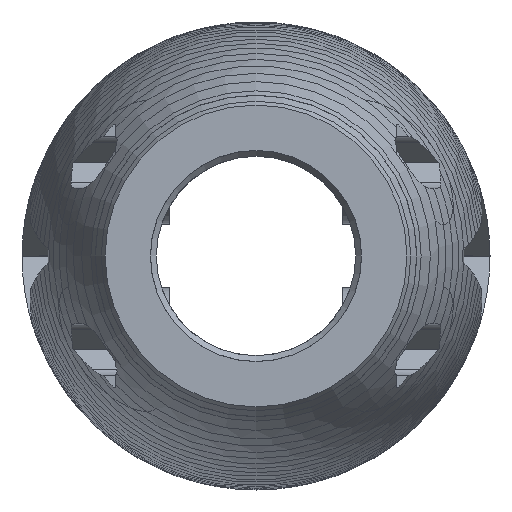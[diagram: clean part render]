
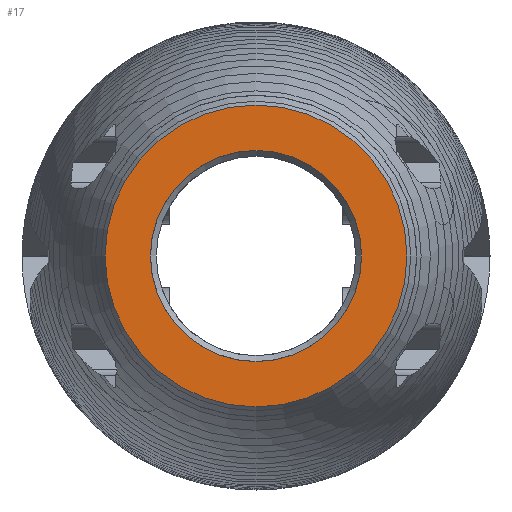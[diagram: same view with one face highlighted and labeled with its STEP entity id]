
A CAD part, left-side view. The second image highlights one B-rep face of the part: STEP entity #17.
In plain terms, the highlighted planar face has unit normal (-1, 0, 0).
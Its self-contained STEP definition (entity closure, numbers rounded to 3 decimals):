
#17 = ADVANCED_FACE('',(#18,#54),#31,.F.);
#18 = FACE_BOUND('',#19,.F.);
#19 = EDGE_LOOP('',(#20));
#20 = ORIENTED_EDGE('',*,*,#21,.F.);
#21 = EDGE_CURVE('',#22,#22,#24,.T.);
#22 = VERTEX_POINT('',#23);
#23 = CARTESIAN_POINT('',(9.9,0.,9.023));
#24 = SURFACE_CURVE('',#25,(#30,#42),.PCURVE_S1.);
#25 = CIRCLE('',#26,9.023);
#26 = AXIS2_PLACEMENT_3D('',#27,#28,#29);
#27 = CARTESIAN_POINT('',(9.9,0.,0.));
#28 = DIRECTION('',(1.,0.,0.));
#29 = DIRECTION('',(0.,0.,1.));
#30 = PCURVE('',#31,#36);
#31 = PLANE('',#32);
#32 = AXIS2_PLACEMENT_3D('',#33,#34,#35);
#33 = CARTESIAN_POINT('',(9.9,-30.,-30.));
#34 = DIRECTION('',(1.,0.,-0.));
#35 = DIRECTION('',(0.,0.,1.));
#36 = DEFINITIONAL_REPRESENTATION('',(#37),#41);
#37 = CIRCLE('',#38,9.023);
#38 = AXIS2_PLACEMENT_2D('',#39,#40);
#39 = CARTESIAN_POINT('',(30.,-30.));
#40 = DIRECTION('',(1.,0.));
#41 = ( GEOMETRIC_REPRESENTATION_CONTEXT(2) 
PARAMETRIC_REPRESENTATION_CONTEXT() REPRESENTATION_CONTEXT('2D SPACE',''
  ) );
#42 = PCURVE('',#43,#48);
#43 = CYLINDRICAL_SURFACE('',#44,9.023);
#44 = AXIS2_PLACEMENT_3D('',#45,#46,#47);
#45 = CARTESIAN_POINT('',(8.9,0.,0.));
#46 = DIRECTION('',(1.,0.,0.));
#47 = DIRECTION('',(-0.,0.,1.));
#48 = DEFINITIONAL_REPRESENTATION('',(#49),#53);
#49 = LINE('',#50,#51);
#50 = CARTESIAN_POINT('',(0.,1.));
#51 = VECTOR('',#52,1.);
#52 = DIRECTION('',(1.,-0.));
#53 = ( GEOMETRIC_REPRESENTATION_CONTEXT(2) 
PARAMETRIC_REPRESENTATION_CONTEXT() REPRESENTATION_CONTEXT('2D SPACE',''
  ) );
#54 = FACE_BOUND('',#55,.F.);
#55 = EDGE_LOOP('',(#56));
#56 = ORIENTED_EDGE('',*,*,#57,.F.);
#57 = EDGE_CURVE('',#58,#58,#60,.T.);
#58 = VERTEX_POINT('',#59);
#59 = CARTESIAN_POINT('',(9.9,12.898,0.));
#60 = SURFACE_CURVE('',#61,(#66,#77),.PCURVE_S1.);
#61 = CIRCLE('',#62,12.898);
#62 = AXIS2_PLACEMENT_3D('',#63,#64,#65);
#63 = CARTESIAN_POINT('',(9.9,0.,0.));
#64 = DIRECTION('',(-1.,0.,0.));
#65 = DIRECTION('',(0.,1.,0.));
#66 = PCURVE('',#31,#67);
#67 = DEFINITIONAL_REPRESENTATION('',(#68),#76);
#68 = ( BOUNDED_CURVE() B_SPLINE_CURVE(2,(#69,#70,#71,#72,#73,#74,#75),
.UNSPECIFIED.,.T.,.F.) B_SPLINE_CURVE_WITH_KNOTS((1,2,2,2,2,1),(
    -2.094,0.,2.094,4.189,6.283,
8.378),.UNSPECIFIED.) CURVE() GEOMETRIC_REPRESENTATION_ITEM() 
RATIONAL_B_SPLINE_CURVE((1.,0.5,1.,0.5,1.,0.5,1.)) REPRESENTATION_ITEM(
  '') );
#69 = CARTESIAN_POINT('',(30.,-42.898));
#70 = CARTESIAN_POINT('',(7.661,-42.898));
#71 = CARTESIAN_POINT('',(18.83,-23.551));
#72 = CARTESIAN_POINT('',(30.,-4.205));
#73 = CARTESIAN_POINT('',(41.17,-23.551));
#74 = CARTESIAN_POINT('',(52.339,-42.898));
#75 = CARTESIAN_POINT('',(30.,-42.898));
#76 = ( GEOMETRIC_REPRESENTATION_CONTEXT(2) 
PARAMETRIC_REPRESENTATION_CONTEXT() REPRESENTATION_CONTEXT('2D SPACE',''
  ) );
#77 = PCURVE('',#78,#83);
#78 = CONICAL_SURFACE('',#79,12.898,0.504);
#79 = AXIS2_PLACEMENT_3D('',#80,#81,#82);
#80 = CARTESIAN_POINT('',(9.9,0.,0.));
#81 = DIRECTION('',(1.,0.,0.));
#82 = DIRECTION('',(-0.,1.,0.));
#83 = DEFINITIONAL_REPRESENTATION('',(#84),#88);
#84 = LINE('',#85,#86);
#85 = CARTESIAN_POINT('',(6.283,0.));
#86 = VECTOR('',#87,1.);
#87 = DIRECTION('',(-1.,-0.));
#88 = ( GEOMETRIC_REPRESENTATION_CONTEXT(2) 
PARAMETRIC_REPRESENTATION_CONTEXT() REPRESENTATION_CONTEXT('2D SPACE',''
  ) );
